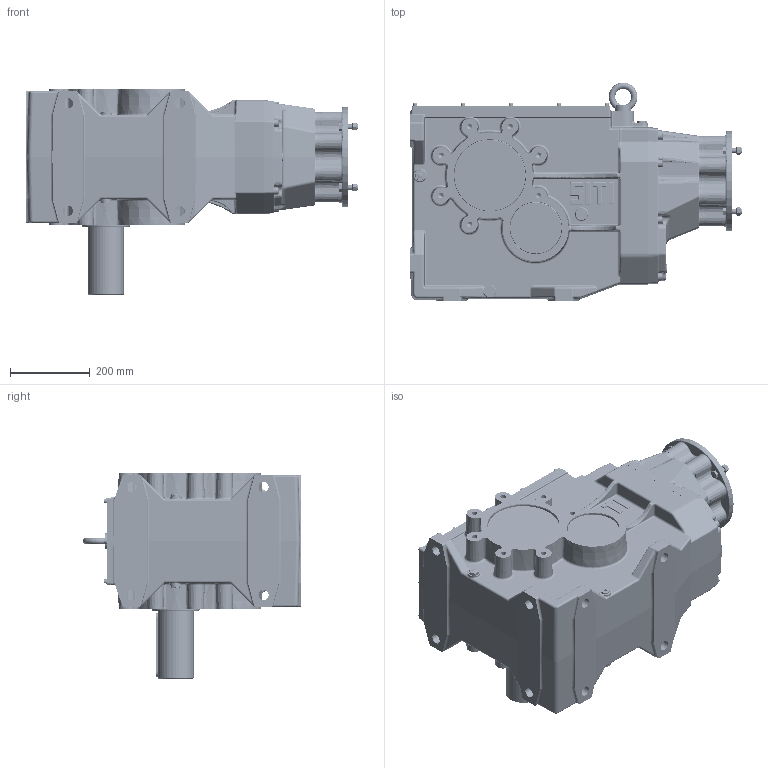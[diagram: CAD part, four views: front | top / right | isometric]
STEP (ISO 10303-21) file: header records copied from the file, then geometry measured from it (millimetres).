
FILE_DESCRIPTION((''),'2;1');
FILE_NAME('O:\Figurini\Figurini BH\3D\160\MBHGC 160 MS-A GR 100-112 B5.stp','2013-05-20T17:01:20',('d.iannaccio'),(''),'Autodesk Inventor 2012','Autodesk Inventor 2012','');
FILE_SCHEMA(('AUTOMOTIVE_DESIGN { 1 0 10303 214 1 1 1 1 }'));
Length unit declared in the file: millimetre
Products named in the file (1): MBHGC_160 MS-A GR 100-112 B5
Bounding box: 832 x 547.98 x 515 mm (x, y, z)
Volume: 27846068.5 mm3; surface area: 3520545.1 mm2
Topology: 63 solids, 65 shells, 4160 faces, 10008 edges, 5977 vertices
Faces by surface type: cylinder 1167, plane 1161, bspline 810, cone 476, torus 471, sphere 75
Full cylindrical faces by diameter (mm): 1.5 x1, 4.917 x12, 6 x24, 6.4 x12, 6.647 x1, 7 x12, 8 x1, 10 x12, 10.106 x8, 11 x2, 12 x46, 12.5 x14, 13 x16, 13.835 x14, 14 x4, 14.95 x8, 17.25 x2, 17.294 x3, 18 x16, 20 x2, 20.5 x16, 21 x2, 22 x1, 24 x1, 24.95 x1, 25 x2, 26 x9, 30 x5, 40 x1, 40.41 x1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
Entity records: 157580 total; most frequent: CARTESIAN_POINT 63876, DIRECTION 18300, ORIENTED_EDGE 18156, EDGE_CURVE 9078, AXIS2_PLACEMENT_3D 7713, VERTEX_POINT 5751, EDGE_LOOP 5005, STYLED_ITEM 4223
